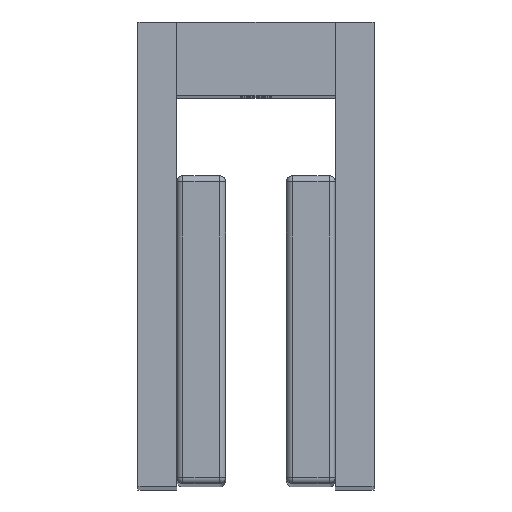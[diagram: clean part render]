
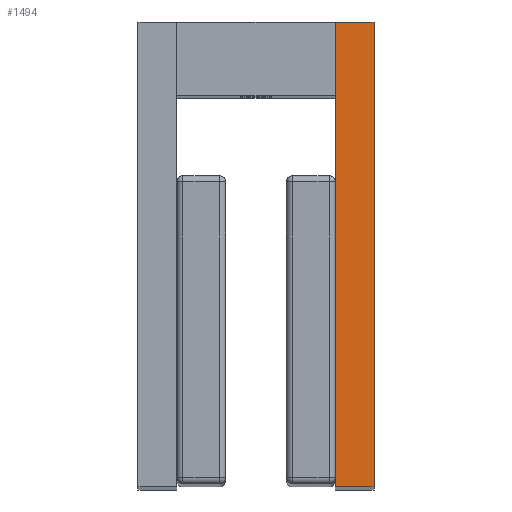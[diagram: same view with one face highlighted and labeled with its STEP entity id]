
A CAD part, top view. The second image highlights one B-rep face of the part: STEP entity #1494.
In plain terms, the highlighted planar face has unit normal (0, 0, 1).
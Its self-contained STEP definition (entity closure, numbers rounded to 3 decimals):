
#111 = AXIS2_PLACEMENT_3D ( 'NONE', #24503, #7069, #4876 ) ;
#153 = VERTEX_POINT ( 'NONE', #24504 ) ;
#1494 = ADVANCED_FACE ( 'Defeatured_0_2', ( #5126 ), #9042, .F. ) ;
#2089 = VECTOR ( 'NONE', #21882, 1000. ) ;
#2915 = LINE ( 'NONE', #24965, #5527 ) ;
#4711 = ORIENTED_EDGE ( 'NONE', *, *, #10040, .T. ) ;
#4876 = DIRECTION ( 'NONE',  ( 1., 0., 0. ) ) ;
#5050 = LINE ( 'NONE', #16820, #13739 ) ;
#5126 = FACE_OUTER_BOUND ( 'NONE', #5525, .T. ) ;
#5222 = EDGE_CURVE ( 'Defeatured_0_5+Defeatured_0_2+Defeatured_0_3+Defeatured_0_1', #5553, #153, #12986, .T. ) ;
#5525 = EDGE_LOOP ( 'NONE', ( #19569, #4711, #19765, #11185, #11500 ) ) ;
#5527 = VECTOR ( 'NONE', #23055, 1000. ) ;
#5553 = VERTEX_POINT ( 'NONE', #14728 ) ;
#6502 = CARTESIAN_POINT ( 'NONE',  ( 13., -70.2, 0. ) ) ;
#6994 = EDGE_CURVE ( 'Defeatured_0_2+Defeatured_0_37+Defeatured_0_3+Defeatured_0_0', #7304, #21288, #12060, .T. ) ;
#7069 = DIRECTION ( 'NONE',  ( 0., 0., -1. ) ) ;
#7304 = VERTEX_POINT ( 'NONE', #13988 ) ;
#7539 = DIRECTION ( 'NONE',  ( 0., -1., 0. ) ) ;
#9042 = PLANE ( 'NONE',  #111 ) ;
#10040 = EDGE_CURVE ( 'Defeatured_0_2+Defeatured_0_0+Defeatured_0_37+Defeatured_0_1', #21288, #12391, #14839, .T. ) ;
#11185 = ORIENTED_EDGE ( 'NONE', *, *, #5222, .F. ) ;
#11419 = EDGE_CURVE ( 'Defeatured_0_2+Defeatured_0_3+Defeatured_0_5+Defeatured_0_37', #5553, #7304, #5050, .T. ) ;
#11500 = ORIENTED_EDGE ( 'NONE', *, *, #11419, .T. ) ;
#11922 = EDGE_CURVE ( 'Defeatured_0_1+Defeatured_0_2+Defeatured_0_5+Defeatured_0_0', #153, #12391, #2915, .T. ) ;
#12060 = LINE ( 'NONE', #6502, #2089 ) ;
#12391 = VERTEX_POINT ( 'NONE', #25036 ) ;
#12986 = LINE ( 'NONE', #20861, #15522 ) ;
#13678 = CARTESIAN_POINT ( 'NONE',  ( 13., -70.2, 0. ) ) ;
#13739 = VECTOR ( 'NONE', #24685, 1000. ) ;
#13988 = CARTESIAN_POINT ( 'NONE',  ( 13., 6., 0. ) ) ;
#14097 = VECTOR ( 'NONE', #15457, 1000. ) ;
#14728 = CARTESIAN_POINT ( 'NONE',  ( 19.35, 6., 0. ) ) ;
#14839 = LINE ( 'NONE', #13678, #14097 ) ;
#15457 = DIRECTION ( 'NONE',  ( 0., -1., 0. ) ) ;
#15522 = VECTOR ( 'NONE', #7539, 1000. ) ;
#16149 = CARTESIAN_POINT ( 'NONE',  ( 13., -6., 0. ) ) ;
#16820 = CARTESIAN_POINT ( 'NONE',  ( 19.35, 6., 0. ) ) ;
#19569 = ORIENTED_EDGE ( 'NONE', *, *, #6994, .T. ) ;
#19765 = ORIENTED_EDGE ( 'NONE', *, *, #11922, .F. ) ;
#20861 = CARTESIAN_POINT ( 'NONE',  ( 19.35, -70.2, 0. ) ) ;
#21288 = VERTEX_POINT ( 'NONE', #16149 ) ;
#21882 = DIRECTION ( 'NONE',  ( 0., -1., 0. ) ) ;
#23055 = DIRECTION ( 'NONE',  ( -1., 0., 0. ) ) ;
#24503 = CARTESIAN_POINT ( 'NONE',  ( 19.35, -70.2, 0. ) ) ;
#24504 = CARTESIAN_POINT ( 'NONE',  ( 19.35, -70.2, 0. ) ) ;
#24685 = DIRECTION ( 'NONE',  ( -1., 0., 0. ) ) ;
#24965 = CARTESIAN_POINT ( 'NONE',  ( 19.35, -70.2, 0. ) ) ;
#25036 = CARTESIAN_POINT ( 'NONE',  ( 13., -70.2, 0. ) ) ;
